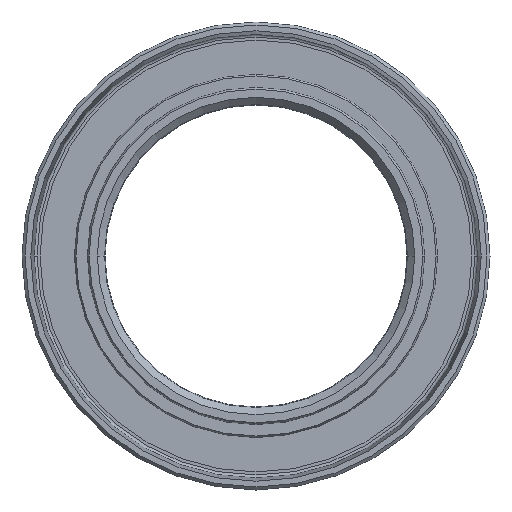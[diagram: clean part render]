
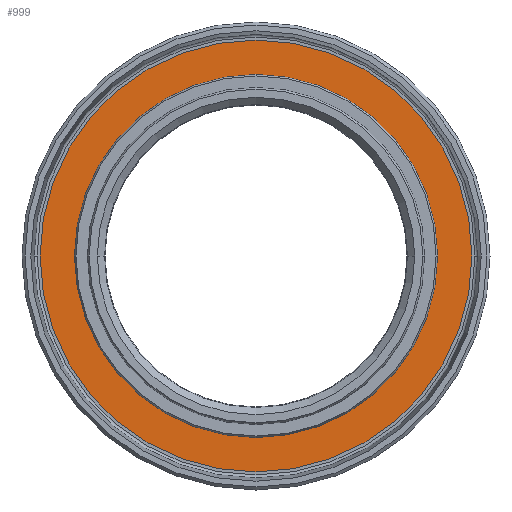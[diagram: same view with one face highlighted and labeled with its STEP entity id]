
A CAD part, left-side view. The second image highlights one B-rep face of the part: STEP entity #999.
In plain terms, the highlighted planar face has unit normal (-1, 0, 0).
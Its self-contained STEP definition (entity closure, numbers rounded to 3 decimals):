
#300=CARTESIAN_POINT('',(5.6,0.,0.));
#301=DIRECTION('',(-1.,0.,0.));
#302=DIRECTION('',(0.,1.,0.));
#303=AXIS2_PLACEMENT_3D('',#300,#301,#302);
#309=CARTESIAN_POINT('',(5.6,0.,0.));
#310=DIRECTION('',(1.,0.,0.));
#311=DIRECTION('',(0.,1.,0.));
#312=AXIS2_PLACEMENT_3D('',#309,#310,#311);
#318=CARTESIAN_POINT('',(5.6,0.,0.));
#319=DIRECTION('',(-1.,0.,0.));
#320=DIRECTION('',(0.,1.,0.));
#321=AXIS2_PLACEMENT_3D('',#318,#319,#320);
#323=CARTESIAN_POINT('',(5.6,0.,0.));
#324=DIRECTION('',(1.,0.,0.));
#325=DIRECTION('',(0.,1.,0.));
#326=AXIS2_PLACEMENT_3D('',#323,#324,#325);
#401=CARTESIAN_POINT('',(5.6,28.607,0.));
#403=VERTEX_POINT('',#401);
#404=CARTESIAN_POINT('',(5.6,24.052,0.));
#406=VERTEX_POINT('',#404);
#451=CARTESIAN_POINT('',(5.6,-28.607,0.));
#453=VERTEX_POINT('',#451);
#454=CARTESIAN_POINT('',(5.6,-24.052,0.));
#456=VERTEX_POINT('',#454);
#984=CARTESIAN_POINT('',(5.6,0.,0.));
#985=DIRECTION('',(-1.,0.,0.));
#986=DIRECTION('',(0.,1.,0.));
#987=AXIS2_PLACEMENT_3D('',#984,#985,#986);
#988=PLANE('',#987);
#990=ORIENTED_EDGE('',*,*,#989,.F.);
#992=ORIENTED_EDGE('',*,*,#991,.T.);
#993=EDGE_LOOP('',(#990,#992));
#994=FACE_OUTER_BOUND('',#993,.F.);
#995=ORIENTED_EDGE('',*,*,#977,.F.);
#996=ORIENTED_EDGE('',*,*,#966,.T.);
#997=EDGE_LOOP('',(#995,#996));
#998=FACE_BOUND('',#997,.F.);
#999=ADVANCED_FACE('',(#994,#998),#988,.T.);
#304=CIRCLE('',#303,24.052);
#313=CIRCLE('',#312,24.052);
#322=CIRCLE('',#321,28.607);
#327=CIRCLE('',#326,28.607);
#966=EDGE_CURVE('',#406,#456,#304,.T.);
#977=EDGE_CURVE('',#406,#456,#313,.T.);
#989=EDGE_CURVE('',#403,#453,#322,.T.);
#991=EDGE_CURVE('',#403,#453,#327,.T.);
